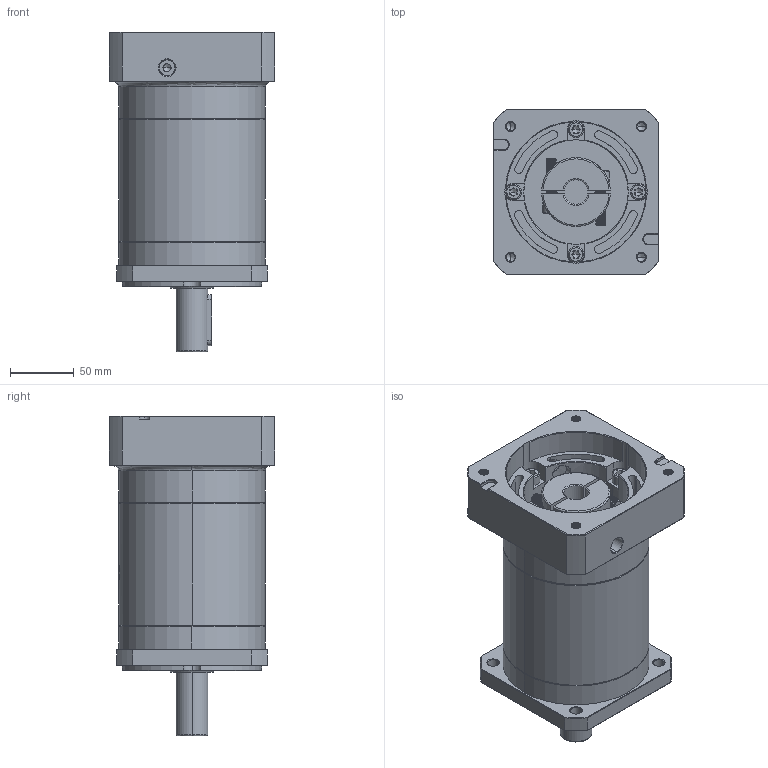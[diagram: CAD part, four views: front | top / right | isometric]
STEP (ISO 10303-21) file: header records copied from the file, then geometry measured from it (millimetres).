
FILE_DESCRIPTION (( 'STEP AP214' ), '1' );
FILE_NAME ('ZF120A-D25-L3-P2-19-110-145-M8.step', '2023-08-27T04:41:28', ( '' ), ( '' ), 'SwSTEP 2.0', 'SolidWorks 2016', '' );
FILE_SCHEMA (( 'AUTOMOTIVE_DESIGN' ));
Length unit declared in the file: millimetre
Products named in the file (1): ZF120A-D25-L3-P2-19-110-145-M8
Bounding box: 130 x 130 x 251 mm (x, y, z)
Volume: 2048601.8 mm3; surface area: 203246.3 mm2
Topology: 6 solids, 6 shells, 2276 faces, 6080 edges, 3903 vertices
Faces by surface type: plane 1060, cylinder 449, bspline 421, cone 327, torus 19
Entity records: 126272 total; most frequent: CARTESIAN_POINT 49915, ORIENTED_EDGE 12100, DIRECTION 8814, EDGE_CURVE 6050, VERTEX_POINT 3903, VECTOR 3172, LINE 3172, AXIS2_PLACEMENT_3D 2821
